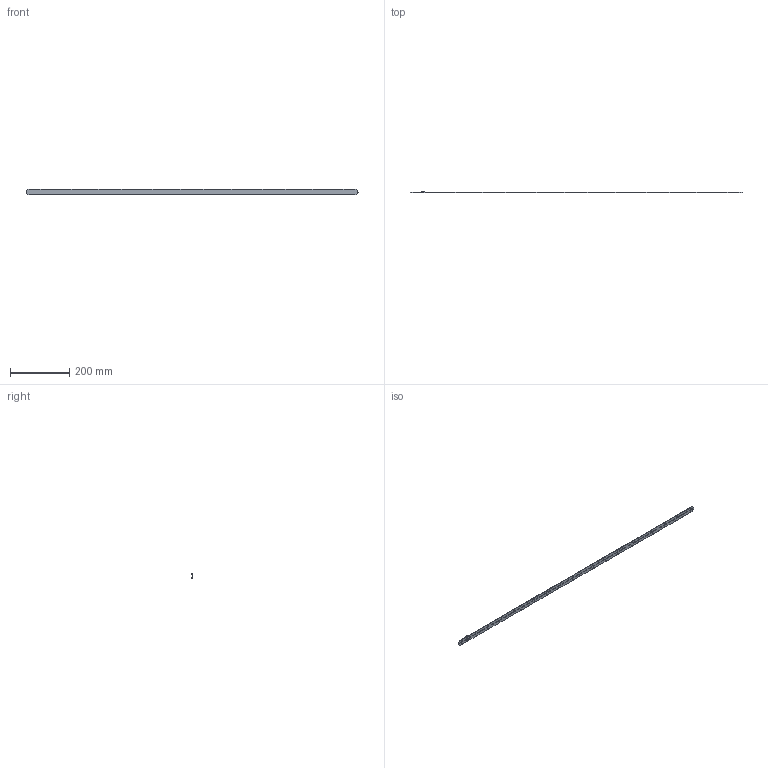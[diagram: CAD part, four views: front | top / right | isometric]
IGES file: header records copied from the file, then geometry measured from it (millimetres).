
Start section: SolidWorks IGES file using analytic representation for surfaces
Global section: file name: D:\ECTR_TEMP\OLQ-batchEngine\queue\temp\4162930swm000.igs; native system: SolidWorks 2017; preprocessor: SolidWorks 2017; author: SYSTEM; date: 200214.162318; units: millimetre
Bounding box: 1119.5 x 5.55 x 20 mm (x, y, z)
Surface area: 52199.5 mm2 (no closed solid volume)
Topology: 0 solids, 0 shells, 2846 faces, 16104 edges, 16102 vertices
Faces by surface type: bspline 2726, revolution 120
